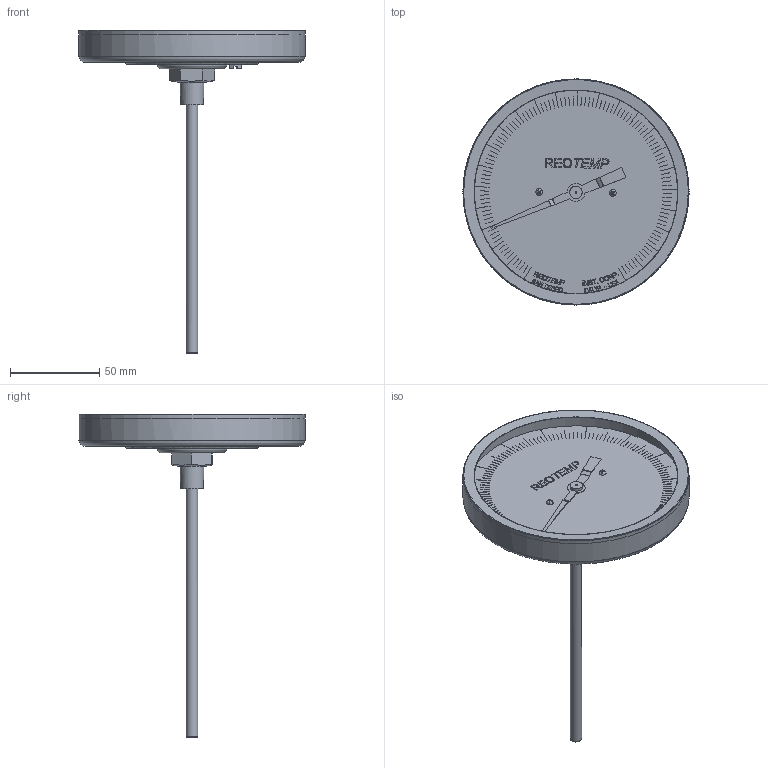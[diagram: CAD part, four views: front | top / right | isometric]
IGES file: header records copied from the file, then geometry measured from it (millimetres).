
Global section: file name: BB-quarter-NPT-IGS; native system: Autodesk Inventor 2014; preprocessor: unknown; author: Charles; date: 20151109.111050; units: inch
Bounding box: 127 x 126.99 x 181.8 mm (x, y, z)
Volume: 88971.8 mm3; surface area: 70544.4 mm2
Topology: 17 solids, 17 shells, 1274 faces, 3299 edges, 2197 vertices
Faces by surface type: bspline 1274
